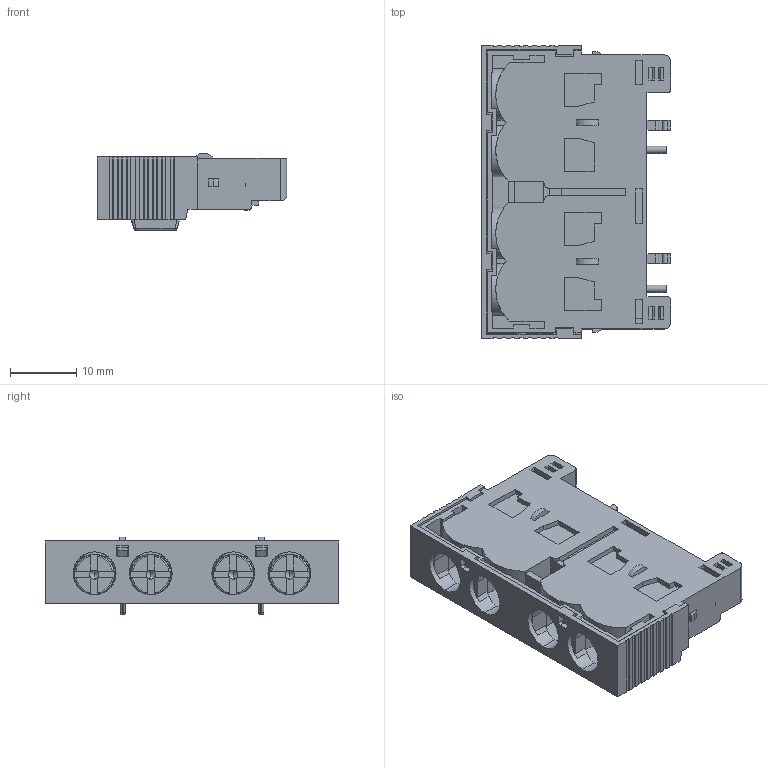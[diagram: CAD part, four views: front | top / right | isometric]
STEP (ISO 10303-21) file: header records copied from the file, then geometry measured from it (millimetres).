
FILE_DESCRIPTION((''),'2;1');
FILE_NAME('NS2-AE','2022-03-01T13:29:10',('lishuai1'),(''),'CREO PARAMETRIC BY PTC INC, 2020044','CREO PARAMETRIC BY PTC INC, 2020044','');
FILE_SCHEMA(('CONFIG_CONTROL_DESIGN','SHAPE_APPEARANCE_LAYERS_GROUPS'));
Products named in the file (1): NS2-AE
Bounding box: 28.7 x 44.5 x 11.79 mm (x, y, z)
Volume: 6974.4 mm3; surface area: 10065 mm2
Topology: 1 solids, 1 shells, 1969 faces, 5683 edges, 3721 vertices
Faces by surface type: plane 1506, cylinder 319, torus 88, bspline 40, cone 16
Entity records: 80279 total; most frequent: CARTESIAN_POINT 15559, ORIENTED_EDGE 11338, DIRECTION 9925, EDGE_CURVE 5669, VECTOR 4345, LINE 4345, VERTEX_POINT 3717, AXIS2_PLACEMENT_3D 2790
